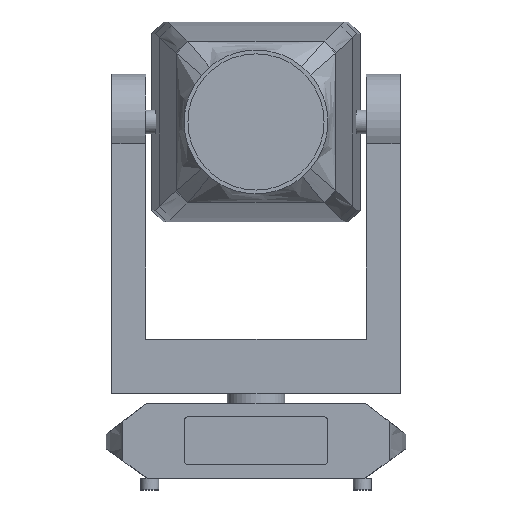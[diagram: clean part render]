
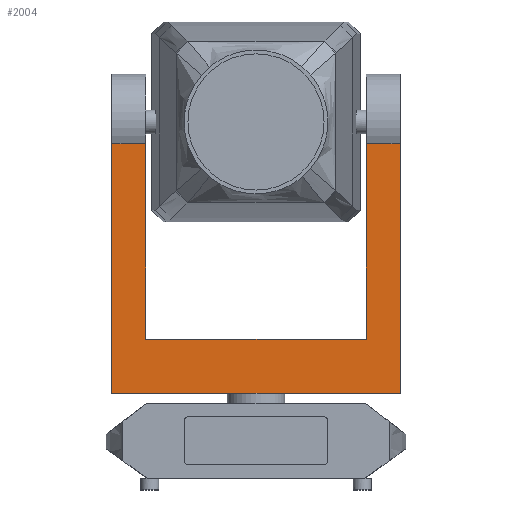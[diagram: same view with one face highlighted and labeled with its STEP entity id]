
A CAD part, front view. The second image highlights one B-rep face of the part: STEP entity #2004.
In plain terms, the highlighted planar face has unit normal (0, -1, 0).
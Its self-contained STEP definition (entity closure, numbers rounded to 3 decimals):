
#172=PLANE('',#2244);
#261=FACE_OUTER_BOUND('',#386,.T.);
#386=EDGE_LOOP('',(#1625,#1626,#1627,#1628,#1629,#1630,#1631,#1632));
#538=LINE('',#4312,#731);
#540=LINE('',#4321,#733);
#544=LINE('',#4327,#737);
#547=LINE('',#4333,#740);
#548=LINE('',#4336,#741);
#549=LINE('',#4338,#742);
#550=LINE('',#4340,#743);
#551=LINE('',#4341,#744);
#731=VECTOR('',#2521,10.);
#733=VECTOR('',#2529,10.);
#737=VECTOR('',#2535,10.);
#740=VECTOR('',#2540,10.);
#741=VECTOR('',#2543,10.);
#742=VECTOR('',#2544,10.);
#743=VECTOR('',#2545,10.);
#744=VECTOR('',#2546,10.);
#963=VERTEX_POINT('',#4308);
#965=VERTEX_POINT('',#4311);
#968=VERTEX_POINT('',#4318);
#969=VERTEX_POINT('',#4320);
#972=VERTEX_POINT('',#4331);
#973=VERTEX_POINT('',#4335);
#974=VERTEX_POINT('',#4337);
#975=VERTEX_POINT('',#4339);
#1193=EDGE_CURVE('',#963,#965,#538,.T.);
#1197=EDGE_CURVE('',#968,#969,#540,.T.);
#1201=EDGE_CURVE('',#965,#968,#544,.T.);
#1204=EDGE_CURVE('',#972,#963,#547,.T.);
#1205=EDGE_CURVE('',#973,#972,#548,.T.);
#1206=EDGE_CURVE('',#974,#973,#549,.T.);
#1207=EDGE_CURVE('',#975,#974,#550,.T.);
#1208=EDGE_CURVE('',#975,#969,#551,.T.);
#1625=ORIENTED_EDGE('',*,*,#1204,.F.);
#1626=ORIENTED_EDGE('',*,*,#1205,.F.);
#1627=ORIENTED_EDGE('',*,*,#1206,.F.);
#1628=ORIENTED_EDGE('',*,*,#1207,.F.);
#1629=ORIENTED_EDGE('',*,*,#1208,.T.);
#1630=ORIENTED_EDGE('',*,*,#1197,.F.);
#1631=ORIENTED_EDGE('',*,*,#1201,.F.);
#1632=ORIENTED_EDGE('',*,*,#1193,.F.);
#2004=ADVANCED_FACE('',(#261),#172,.F.);
#2244=AXIS2_PLACEMENT_3D('',#4334,#2541,#2542);
#2521=DIRECTION('',(0.,0.,1.));
#2529=DIRECTION('',(0.,0.,-1.));
#2535=DIRECTION('',(1.,0.,0.));
#2540=DIRECTION('',(1.,0.,0.));
#2541=DIRECTION('center_axis',(0.,1.,0.));
#2542=DIRECTION('ref_axis',(0.,0.,
1.));
#2543=DIRECTION('',(0.,0.,-1.));
#2544=DIRECTION('',(1.,0.,0.));
#2545=DIRECTION('',(0.,0.,1.));
#2546=DIRECTION('',(1.,0.,0.));
#4308=CARTESIAN_POINT('',(143.214,-55.,180.8));
#4311=CARTESIAN_POINT('',(143.214,-55.,434.562));
#4312=CARTESIAN_POINT('',(143.214,-55.,214.277));
#4318=CARTESIAN_POINT('',(187.268,-55.,434.562));
#4320=CARTESIAN_POINT('',(187.268,-55.,110.828));
#4321=CARTESIAN_POINT('',(187.268,-55.,317.563));
#4327=CARTESIAN_POINT('',(0.,-55.,434.562));
#4331=CARTESIAN_POINT('',(-143.214,-55.,180.8));
#4333=CARTESIAN_POINT('',(-71.607,-55.,180.8));
#4334=CARTESIAN_POINT('Origin',(0.,-55.,110.828));
#4335=CARTESIAN_POINT('',(-143.214,-55.,434.562));
#4336=CARTESIAN_POINT('',(-143.214,-55.,317.563));
#4337=CARTESIAN_POINT('',(-187.268,-55.,434.562));
#4338=CARTESIAN_POINT('',(0.,-55.,434.562));
#4339=CARTESIAN_POINT('',(-187.268,-55.,110.828));
#4340=CARTESIAN_POINT('',(-187.268,-55.,110.814));
#4341=CARTESIAN_POINT('',(0.,-55.,110.828));
